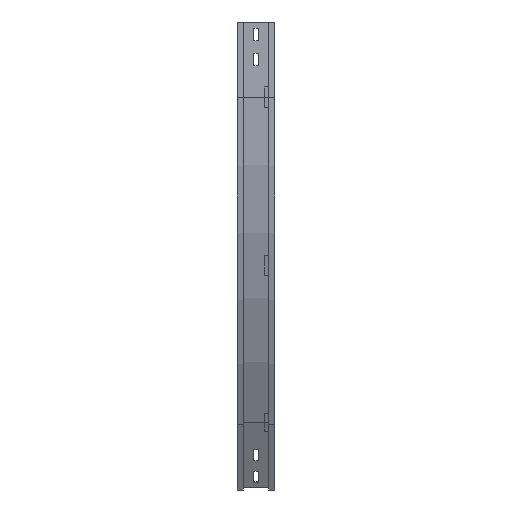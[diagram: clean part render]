
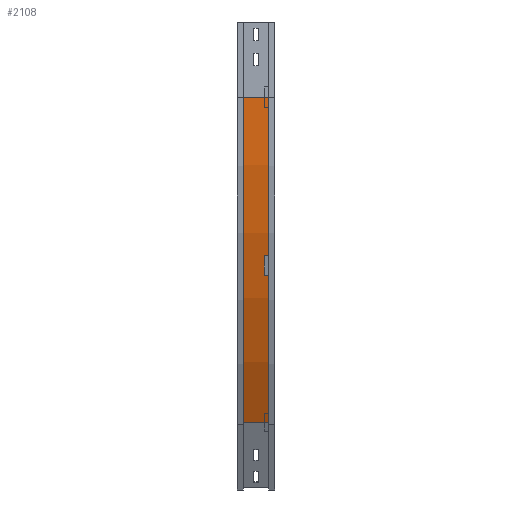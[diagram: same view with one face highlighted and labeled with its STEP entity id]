
A CAD part, left-side view. The second image highlights one B-rep face of the part: STEP entity #2108.
In plain terms, the highlighted cylindrical face has radius 1300 mm (diameter 2600 mm), a partial arc.
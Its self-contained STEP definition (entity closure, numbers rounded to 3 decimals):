
#131 = VECTOR ( 'NONE', #3202, 1000. ) ;
#161 = VERTEX_POINT ( 'NONE', #225 ) ;
#176 = DIRECTION ( 'NONE',  ( -1., 0., 0. ) ) ;
#220 = CIRCLE ( 'NONE', #2151, 1300. ) ;
#225 = CARTESIAN_POINT ( 'NONE',  ( 183.167, 63., -800. ) ) ;
#234 = CARTESIAN_POINT ( 'NONE',  ( 9., 63., -150. ) ) ;
#420 = DIRECTION ( 'NONE',  ( -1., 0., 0. ) ) ;
#607 = CIRCLE ( 'NONE', #1728, 1300. ) ;
#733 = AXIS2_PLACEMENT_3D ( 'NONE', #939, #3285, #2825 ) ;
#922 = DIRECTION ( 'NONE',  ( 0., -1., 0. ) ) ;
#939 = CARTESIAN_POINT ( 'NONE',  ( 1309., 0., -150. ) ) ;
#1072 = VECTOR ( 'NONE', #1710, 1000. ) ;
#1163 = ORIENTED_EDGE ( 'NONE', *, *, #1925, .F. ) ;
#1197 = CARTESIAN_POINT ( 'NONE',  ( 1309., 63., -150. ) ) ;
#1284 = CARTESIAN_POINT ( 'NONE',  ( 9., 12., -150. ) ) ;
#1306 = CARTESIAN_POINT ( 'NONE',  ( 183.167, 12., -800. ) ) ;
#1422 = EDGE_CURVE ( 'NONE', #2216, #1435, #220, .T. ) ;
#1435 = VERTEX_POINT ( 'NONE', #1791 ) ;
#1710 = DIRECTION ( 'NONE',  ( 0., -1., 0. ) ) ;
#1728 = AXIS2_PLACEMENT_3D ( 'NONE', #1197, #922, #420 ) ;
#1791 = CARTESIAN_POINT ( 'NONE',  ( 183.167, 12., -800. ) ) ;
#1925 = EDGE_CURVE ( 'NONE', #3336, #2216, #2139, .T. ) ;
#2003 = ORIENTED_EDGE ( 'NONE', *, *, #1422, .F. ) ;
#2108 = ADVANCED_FACE ( 'NONE', ( #2244 ), #3319, .T. ) ;
#2139 = LINE ( 'NONE', #3242, #131 ) ;
#2151 = AXIS2_PLACEMENT_3D ( 'NONE', #3116, #3080, #176 ) ;
#2204 = ORIENTED_EDGE ( 'NONE', *, *, #3066, .T. ) ;
#2216 = VERTEX_POINT ( 'NONE', #1284 ) ;
#2244 = FACE_OUTER_BOUND ( 'NONE', #2493, .T. ) ;
#2493 = EDGE_LOOP ( 'NONE', ( #2003, #1163, #3189, #2204 ) ) ;
#2599 = EDGE_CURVE ( 'NONE', #3336, #161, #607, .T. ) ;
#2825 = DIRECTION ( 'NONE',  ( 0., 0., -1. ) ) ;
#2866 = LINE ( 'NONE', #1306, #1072 ) ;
#3066 = EDGE_CURVE ( 'NONE', #161, #1435, #2866, .T. ) ;
#3080 = DIRECTION ( 'NONE',  ( 0., -1., 0. ) ) ;
#3116 = CARTESIAN_POINT ( 'NONE',  ( 1309., 12., -150. ) ) ;
#3189 = ORIENTED_EDGE ( 'NONE', *, *, #2599, .T. ) ;
#3202 = DIRECTION ( 'NONE',  ( 0., -1., 0. ) ) ;
#3242 = CARTESIAN_POINT ( 'NONE',  ( 9., 12., -150. ) ) ;
#3285 = DIRECTION ( 'NONE',  ( 0., -1., 0. ) ) ;
#3319 = CYLINDRICAL_SURFACE ( 'NONE', #733, 1300. ) ;
#3336 = VERTEX_POINT ( 'NONE', #234 ) ;
